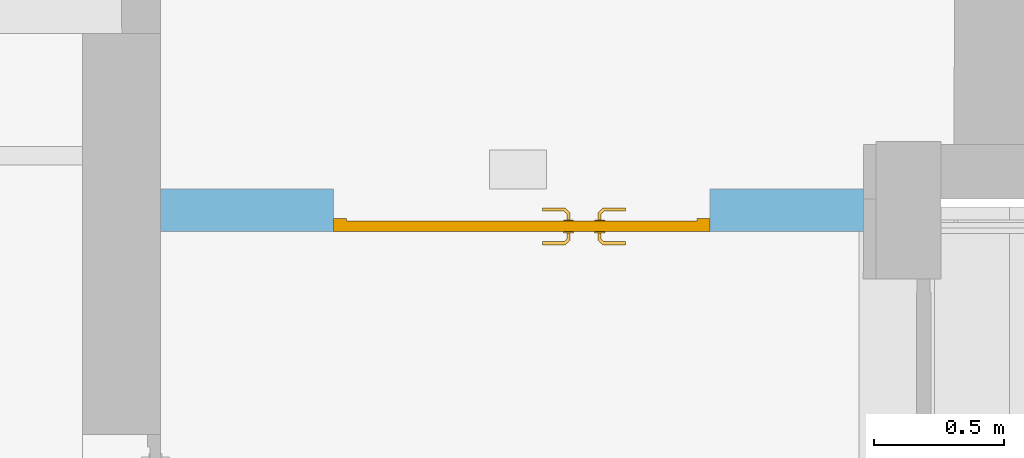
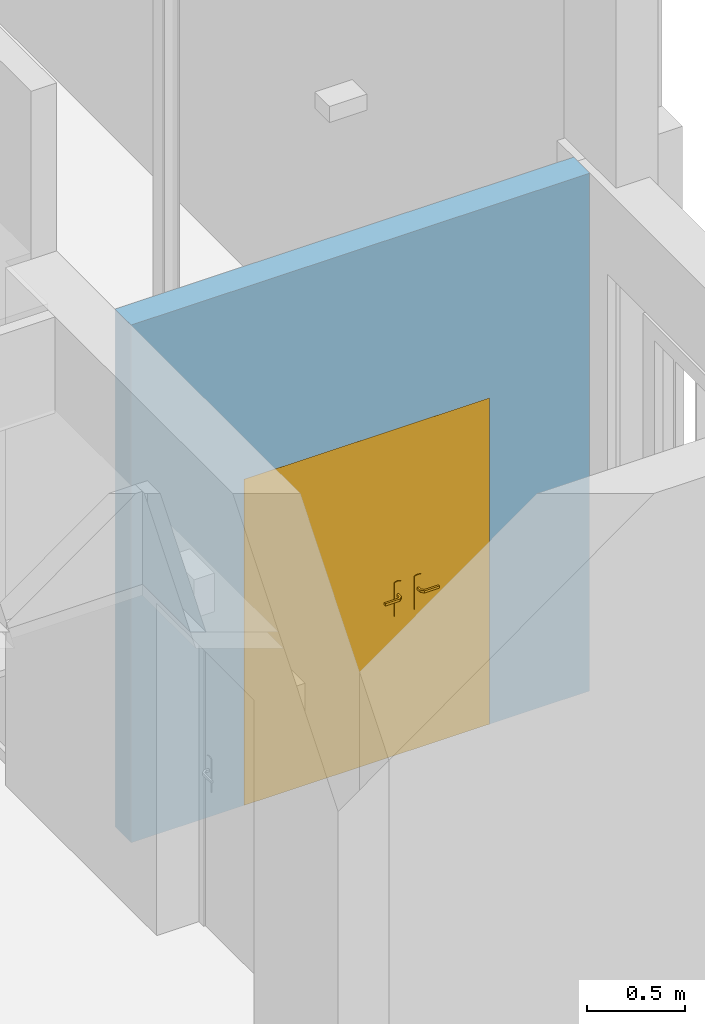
# One storey, part 49 of 128: 1 door, 1 opening, plus 1 element that does not belong to this part.
"""IFC2X3 building model written with IfcOpenShell, lengths in metres."""

from ifc_helpers import new_model, entity, si_unit, converted_unit, derived_unit, direction, frame, frame_2d, origin, place, context, subcontext, project, spatial, polyline, rectangle, outline, extrude, faceted_brep, source, transform, mapped, material, layer, layer_set, layer_usage, type_object, type_shapes, element, fill, save


model = new_model("IFC2X3")

# Units and contexts
model_context = context("Model", 3, precision=1e-05, world=origin(), true_north=direction((6.123031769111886e-17, 1.0)))
body_context = subcontext(model_context, "Body", "Model", "MODEL_VIEW")
ifc_project = project(units=[si_unit("LENGTHUNIT", "METRE"), si_unit("AREAUNIT", "SQUARE_METRE"), converted_unit("PLANEANGLEUNIT", "DEGREE", entity("IfcPlaneAngleMeasure", 0.017453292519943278), si_unit("PLANEANGLEUNIT", "RADIAN"), dimensions=[0, 0, 0, 0, 0, 0, 0]), derived_unit("THERMALTRANSMITTANCEUNIT", [(si_unit("MASSUNIT", "GRAM", prefix="KILO"), 1), (si_unit("THERMODYNAMICTEMPERATUREUNIT", "KELVIN"), -1), (si_unit("TIMEUNIT", "SECOND"), -3)])], contexts=[model_context])

# Site, building, storey
site_placement = place(None, origin())
site = spatial("IfcSite", under=ifc_project, at=site_placement, Name="Default", CompositionType="ELEMENT")
building_placement = place(site_placement, origin())
building = spatial("IfcBuilding", under=site, at=building_placement, CompositionType="ELEMENT")
storey_placement = place(building_placement, origin())
storey = spatial("IfcBuildingStorey", under=building, at=storey_placement, Name="00_RDC CAF", CompositionType="ELEMENT", Elevation=2.4982504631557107e-13)

# Wall, opening, door
ifc_material_1 = material(Name="STR - Beton Mur")
ifc_layer = layer(ifc_material_1, 0.16499999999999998)
ifc_layer_set = layer_set([ifc_layer], Name="Mur de base:M_Int_Beton_165mm")
ifc_layer_usage = layer_usage(ifc_layer_set, "AXIS2", "POSITIVE", -0.08249999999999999)
wall_type = type_object("IfcWallType", Name="Mur de base:M_Int_Beton_165mm", PredefinedType="STANDARD", material=ifc_layer_set)
wall_placement = place(storey_placement, frame((45.844054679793, 129.98613845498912, 0.0)))
wall = element("IfcWallStandardCase", 1, at=wall_placement, inside=storey, type_object=wall_type, material=ifc_layer_usage, Name="Mur de base:M_Int_Beton_165mm", ObjectType="Mur de base:M_Int_Beton_165mm", context=body_context, shape_type="SweptSolid", body=[
    extrude(outline(polyline([(0.0, -0.08249999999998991), (2.706218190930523, -0.0824999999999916), (2.7064840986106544, 0.04238029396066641), (2.706569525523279, 0.08250000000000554), (0.0, 0.08250000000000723), (0.0, -0.08249999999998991)])), origin(), (0.0, 0.0, 1.0), 3.23000000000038),
])
opening_placement = place(wall_placement, frame((2.1157045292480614, 0.0824999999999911, 0.0)))
opening = element("IfcOpeningElement", 2, at=opening_placement, cuts=wall, Name="P_Tunnel_Tierce:P_Int_Tierce_Pleine_1380x2000mm:1", ObjectType="Opening", context=body_context, shape_type="SweptSolid", body=[
    extrude(rectangle(XDim=2.0349999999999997, YDim=1.4499999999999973, at=frame_2d((1.0174999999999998, 0.7250000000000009), x_axis=(1.0, 0.0))), frame((0.0, 0.0, 0.0), z_axis=(0.0, -1.0, 0.0), x_axis=(0.0, 0.0, 1.0)), (0.0, 0.0, 1.0), 0.16499999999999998),
])
ifc_material_2 = material(Name="ARC - M.In - Blanc")
door_style = type_object("IfcDoorStyle", Name="P_Tunnel_Tierce:P_Int_Tierce_Pleine_1380x2000mm", ConstructionType="NOTDEFINED", OperationType="NOTDEFINED", ParameterTakesPrecedence=False, Sizeable=False, material=ifc_material_2)
shared_shape = source(origin(), body_context, "Body", "Brep", [
    faceted_brep([(1.0229747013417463, 0.045000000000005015, 1.0077804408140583), (1.0189999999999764, 0.04500000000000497, 1.0069999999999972), (1.0189999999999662, 0.04500000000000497, 0.9929999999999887), (1.0229747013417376, 0.045000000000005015, 0.9922195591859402), (1.0270252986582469, 0.045000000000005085, 0.9922195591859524), (1.031000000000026, 0.04500000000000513, 0.9930000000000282), (1.0310000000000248, 0.04500000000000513, 1.006999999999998), (1.0270252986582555, 0.045000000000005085, 1.0077804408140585), (1.0310000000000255, 0.06748520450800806, 0.9930000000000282), (1.0310000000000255, 0.06748520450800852, 1.006999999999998), (1.0270252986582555, 0.06913157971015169, 1.0077804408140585), (1.0408389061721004, 0.08294518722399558, 1.0077804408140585), (1.0391610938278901, 0.08699578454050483, 1.0077804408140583), (1.0229747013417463, 0.07080939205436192, 1.0077804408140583), (1.0189999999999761, 0.07245576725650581, 1.0069999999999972), (1.018999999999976, 0.07245576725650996, 0.9929999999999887), (1.0229747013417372, 0.0708093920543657, 0.9922195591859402), (1.0391610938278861, 0.08699578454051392, 0.9922195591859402), (1.0408389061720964, 0.08294518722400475, 0.9922195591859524), (1.0270252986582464, 0.0691315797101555, 0.9922195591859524), (1.0424852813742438, 0.07897048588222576, 0.9930000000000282), (1.0424852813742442, 0.07897048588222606, 1.006999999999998), (1.0375147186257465, 0.09097048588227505, 1.0069999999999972), (1.0375147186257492, 0.09097048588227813, 0.9929999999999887), (1.1250457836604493, 0.07897048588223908, 0.9930000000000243), (1.1250457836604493, 0.08294518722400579, 0.9922195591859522), (1.1250457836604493, 0.08699578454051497, 0.99221955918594), (1.1250457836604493, 0.0909704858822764, 0.9929999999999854), (1.1250457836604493, 0.09097048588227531, 1.0069999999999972), (1.1250457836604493, 0.08699578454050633, 1.007780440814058), (1.1250457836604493, 0.08294518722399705, 1.0077804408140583), (1.1250457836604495, 0.07897048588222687, 1.0069999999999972), (1.0837655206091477, 0.07897048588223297, 0.9930000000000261), (1.0837655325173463, 0.0789704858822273, 1.0069999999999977), (1.0829423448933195, 0.08497048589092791, 1.0078786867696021), (1.077445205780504, 0.09097048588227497, 1.0069999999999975), (1.0774452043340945, 0.09097048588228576, 0.9929999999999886), (1.0829423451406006, 0.08497048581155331, 0.9921213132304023)], [[[0, 1, 2, 3, 4, 5, 6, 7]], [[6, 5, 8, 9]], [[9, 10, 7, 6]], [[10, 11, 12, 13, 0, 7]], [[13, 14, 1, 0]], [[2, 1, 14, 15]], [[15, 16, 3, 2]], [[16, 17, 18, 19, 4, 3]], [[19, 8, 5, 4]], [[9, 8, 20, 21]], [[21, 11, 10, 9]], [[12, 22, 14, 13]], [[15, 14, 22, 23]], [[23, 17, 16, 15]], [[18, 20, 8, 19]], [[24, 25, 26, 27, 28, 29, 30, 31]], [[21, 20, 32, 24, 31, 33]], [[33, 30, 34]], [[35, 34, 29]], [[21, 33, 11]], [[33, 31, 30]], [[28, 35, 29]], [[22, 12, 35]], [[35, 12, 34]], [[12, 11, 34]], [[11, 33, 34]], [[29, 34, 30]], [[22, 35, 28, 27, 36, 23]], [[36, 26, 37]], [[27, 26, 36]], [[17, 23, 36]], [[37, 32, 18]], [[20, 18, 32]], [[32, 25, 24]], [[26, 25, 37]], [[25, 32, 37]], [[17, 36, 37]], [[17, 37, 18]]]),
    faceted_brep([(1.0229747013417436, -0.004999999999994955, 1.0077804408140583), (1.0270252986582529, -0.004999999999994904, 1.0077804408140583), (1.0310000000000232, -0.004999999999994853, 1.006999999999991), (1.0310000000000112, -0.004999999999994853, 0.9930000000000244), (1.0270252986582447, -0.004999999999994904, 0.9922195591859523), (1.0229747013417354, -0.004999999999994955, 0.9922195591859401), (1.0189999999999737, -0.004999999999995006, 0.9929999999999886), (1.0189999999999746, -0.004999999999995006, 1.0069999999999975), (1.0189999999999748, -0.03265095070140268, 1.0069999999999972), (1.0229747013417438, -0.03100457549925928, 1.0077804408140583), (1.0390235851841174, -0.047053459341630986, 1.0077804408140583), (1.0407013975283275, -0.04300286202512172, 1.0077804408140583), (1.0270252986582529, -0.029326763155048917, 1.0077804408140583), (1.0310000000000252, -0.027680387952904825, 1.0069999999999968), (1.0310000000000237, -0.027680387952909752, 0.9930000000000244), (1.027025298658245, -0.0293267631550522, 0.9922195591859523), (1.040701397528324, -0.04300286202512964, 0.9922195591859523), (1.0390235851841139, -0.04705345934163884, 0.9922195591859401), (1.0229747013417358, -0.031004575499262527, 0.9922195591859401), (1.0189999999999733, -0.03265095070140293, 0.9929999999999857), (1.0373772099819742, -0.05102816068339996, 1.0069999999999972), (1.0423477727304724, -0.03902816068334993, 1.0069999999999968), (1.0423477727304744, -0.03902816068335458, 0.9930000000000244), (1.0373772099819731, -0.05102816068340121, 0.9929999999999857), (1.125018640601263, -0.051028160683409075, 0.9929999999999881), (1.1250186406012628, -0.04705345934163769, 0.9922195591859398), (1.1250186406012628, -0.043002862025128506, 0.992219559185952), (1.1250186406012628, -0.03902816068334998, 0.9930000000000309), (1.1250186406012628, -0.0390281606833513, 1.0069999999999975), (1.1250186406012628, -0.04300286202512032, 1.007780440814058), (1.125018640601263, -0.04705345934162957, 1.0077804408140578), (1.125018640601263, -0.05102816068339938, 1.0069999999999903), (1.0773076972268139, -0.05102816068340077, 1.0069999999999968), (1.0828600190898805, -0.04502816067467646, 1.007878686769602), (1.0836832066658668, -0.03902816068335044, 1.0069999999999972), (1.0836832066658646, -0.03902816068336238, 0.9930000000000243), (1.0828600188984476, -0.04502816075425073, 0.9921213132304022), (1.0773077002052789, -0.05102816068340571, 0.992999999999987)], [[[0, 1, 2, 3, 4, 5, 6, 7]], [[8, 9, 0, 7]], [[9, 10, 11, 12, 1, 0]], [[12, 13, 2, 1]], [[3, 2, 13, 14]], [[14, 15, 4, 3]], [[15, 16, 17, 18, 5, 4]], [[18, 19, 6, 5]], [[7, 6, 19, 8]], [[20, 10, 9, 8]], [[11, 21, 13, 12]], [[14, 13, 21, 22]], [[22, 16, 15, 14]], [[17, 23, 19, 18]], [[8, 19, 23, 20]], [[24, 25, 26, 27, 28, 29, 30, 31]], [[32, 30, 33]], [[31, 30, 32]], [[10, 20, 32]], [[33, 34, 11]], [[21, 11, 34]], [[34, 29, 28]], [[30, 29, 33]], [[29, 34, 33]], [[10, 32, 33]], [[10, 33, 11]], [[22, 21, 34, 28, 27, 35]], [[35, 26, 36]], [[37, 36, 25]], [[22, 35, 16]], [[35, 27, 26]], [[24, 37, 25]], [[23, 17, 37]], [[37, 17, 36]], [[17, 16, 36]], [[16, 35, 36]], [[25, 36, 26]], [[20, 23, 37, 24, 31, 32]]]),
    faceted_brep([(1.0353527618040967, 0.040000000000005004, 0.866003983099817), (1.0449999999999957, 0.0400000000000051, 0.8700000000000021), (1.0449999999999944, 0.0400000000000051, 1.0800000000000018), (1.0353527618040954, 0.040000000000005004, 1.083996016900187), (1.0249999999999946, 0.04000000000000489, 1.0853589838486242), (1.014647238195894, 0.04000000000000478, 1.0839960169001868), (1.0049999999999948, 0.04000000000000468, 1.0800000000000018), (1.0049999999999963, 0.04000000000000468, 0.8700000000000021), (1.0146472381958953, 0.04000000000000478, 0.8660039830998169), (1.024999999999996, 0.04000000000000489, 0.8646410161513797), (1.0353527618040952, 0.04500000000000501, 1.083996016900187), (1.0449999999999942, 0.045000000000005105, 1.0800000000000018), (1.0449999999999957, 0.045000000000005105, 0.8700000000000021), (1.0353527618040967, 0.04500000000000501, 0.866003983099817), (1.024999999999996, 0.0450000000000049, 0.8646410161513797), (1.0146472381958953, 0.04500000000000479, 0.8660039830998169), (1.0049999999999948, 0.045000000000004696, 0.870000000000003), (1.0049999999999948, 0.045000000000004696, 1.0800000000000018), (1.014647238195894, 0.04500000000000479, 1.0839960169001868), (1.0249999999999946, 0.0450000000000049, 1.0853589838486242)], [[[0, 1, 2, 3, 4, 5, 6, 7, 8, 9]], [[10, 11, 12, 13, 14, 15, 16, 17, 18, 19]], [[11, 10, 3, 2]], [[3, 10, 19, 4]], [[19, 18, 5, 4]], [[18, 17, 6, 5]], [[7, 6, 17, 16]], [[16, 15, 8, 7]], [[8, 15, 14, 9]], [[14, 13, 0, 9]], [[13, 12, 1, 0]], [[2, 1, 12, 11]]]),
    faceted_brep([(1.0353527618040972, -0.004999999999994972, 0.866003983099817), (1.0449999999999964, -0.0049999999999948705, 0.8700000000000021), (1.044999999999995, -0.0049999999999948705, 1.0800000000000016), (1.035352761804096, -0.004999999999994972, 1.0839960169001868), (1.0249999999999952, -0.00499999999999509, 1.0853589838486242), (1.0146472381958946, -0.0049999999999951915, 1.083996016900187), (1.0049999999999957, -0.004999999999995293, 1.0800000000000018), (1.0049999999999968, -0.004999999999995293, 0.8700000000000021), (1.014647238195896, -0.0049999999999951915, 0.866003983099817), (1.0249999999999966, -0.00499999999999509, 0.8646410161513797), (1.035352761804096, 0.0, 1.0839960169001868), (1.0449999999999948, 0.0, 1.0800000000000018), (1.0449999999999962, 0.0, 0.8700000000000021), (1.0353527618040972, 0.0, 0.866003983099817), (1.0249999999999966, 0.0, 0.8646410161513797), (1.0146472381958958, 0.0, 0.866003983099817), (1.0049999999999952, 0.0, 0.8700000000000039), (1.0049999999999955, 0.0, 1.0800000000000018), (1.0146472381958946, 0.0, 1.083996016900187), (1.0249999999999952, 0.0, 1.0853589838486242)], [[[0, 1, 2, 3, 4, 5, 6, 7, 8, 9]], [[10, 11, 12, 13, 14, 15, 16, 17, 18, 19]], [[16, 15, 8, 7]], [[8, 15, 14, 9]], [[14, 13, 0, 9]], [[13, 12, 1, 0]], [[2, 1, 12, 11]], [[11, 10, 3, 2]], [[3, 10, 19, 4]], [[19, 18, 5, 4]], [[18, 17, 6, 5]], [[7, 6, 17, 16]]]),
    faceted_brep([(0.9649999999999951, 0.040000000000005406, 2.0), (1.4149999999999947, 0.040000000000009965, 2.0), (1.4149999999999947, 0.040000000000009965, 0.0), (0.9649999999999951, 0.040000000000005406, 0.0), (1.4149999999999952, 0.0, 2.0), (1.4149999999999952, 0.0, 0.0), (0.9649999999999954, 0.0, 0.0), (0.9649999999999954, 0.0, 2.0)], [[[0, 1, 2, 3]], [[2, 1, 4, 5]], [[3, 2, 5, 6]], [[0, 3, 6, 7]], [[7, 6, 5, 4]], [[1, 0, 7, 4]]]),
    faceted_brep([(0.9029747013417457, 0.045000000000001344, 0.9922195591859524), (0.907025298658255, 0.045000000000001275, 0.9922195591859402), (0.9110000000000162, 0.045000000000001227, 0.9929999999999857), (0.9110000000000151, 0.045000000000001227, 1.0069999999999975), (0.9070252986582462, 0.045000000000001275, 1.0077804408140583), (0.902974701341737, 0.045000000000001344, 1.0077804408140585), (0.8989999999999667, 0.04500000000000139, 1.0069999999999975), (0.898999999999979, 0.04500000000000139, 0.9930000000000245), (0.8989999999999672, 0.0674852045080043, 1.0069999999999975), (0.8989999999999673, 0.06748520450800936, 0.9930000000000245), (0.902974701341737, 0.06913157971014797, 1.0077804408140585), (0.9070252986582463, 0.0708093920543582, 1.0077804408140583), (0.8908389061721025, 0.08699578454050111, 1.0077804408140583), (0.8891610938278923, 0.08294518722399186, 1.0077804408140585), (0.9110000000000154, 0.07245576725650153, 1.0069999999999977), (0.9110000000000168, 0.07245576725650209, 0.9929999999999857), (0.9070252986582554, 0.07080939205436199, 0.9922195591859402), (0.9029747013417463, 0.06913157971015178, 0.9922195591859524), (0.8891610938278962, 0.08294518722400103, 0.9922195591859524), (0.8908389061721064, 0.08699578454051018, 0.9922195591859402), (0.8875147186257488, 0.07897048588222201, 1.0069999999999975), (0.8875147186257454, 0.07897048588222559, 0.9930000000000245), (0.8924852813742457, 0.09097048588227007, 1.0069999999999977), (0.8924852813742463, 0.09097048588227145, 0.9929999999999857), (0.8049542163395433, 0.08294518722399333, 1.0077804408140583), (0.8049542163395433, 0.08699578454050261, 1.007780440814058), (0.8049542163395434, 0.09097048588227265, 1.006999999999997), (0.8049542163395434, 0.09097048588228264, 0.9929999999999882), (0.8049542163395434, 0.08699578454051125, 0.99221955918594), (0.8049542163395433, 0.08294518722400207, 0.9922195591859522), (0.8049542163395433, 0.07897048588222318, 0.993000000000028), (0.8049542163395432, 0.0789704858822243, 1.0069999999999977), (0.8462344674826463, 0.07897048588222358, 1.0069999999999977), (0.8462344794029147, 0.07897048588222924, 0.9930000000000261), (0.847057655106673, 0.08497048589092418, 1.0078786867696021), (0.8525547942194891, 0.09097048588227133, 1.0069999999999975), (0.8525547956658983, 0.09097048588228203, 0.9929999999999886), (0.8470576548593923, 0.08497048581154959, 0.9921213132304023)], [[[0, 1, 2, 3, 4, 5, 6, 7]], [[8, 9, 7, 6]], [[5, 10, 8, 6]], [[5, 4, 11, 12, 13, 10]], [[3, 14, 11, 4]], [[14, 3, 2, 15]], [[2, 1, 16, 15]], [[1, 0, 17, 18, 19, 16]], [[0, 7, 9, 17]], [[20, 21, 9, 8]], [[8, 10, 13, 20]], [[14, 22, 12, 11]], [[23, 22, 14, 15]], [[15, 16, 19, 23]], [[17, 9, 21, 18]], [[24, 25, 26, 27, 28, 29, 30, 31]], [[21, 20, 32, 31, 30, 33]], [[34, 24, 32]], [[25, 34, 35]], [[13, 32, 20]], [[24, 31, 32]], [[25, 35, 26]], [[35, 12, 22]], [[34, 12, 35]], [[34, 13, 12]], [[34, 32, 13]], [[24, 34, 25]], [[22, 23, 36, 27, 26, 35]], [[37, 28, 36]], [[36, 28, 27]], [[36, 23, 19]], [[18, 33, 37]], [[33, 18, 21]], [[30, 29, 33]], [[37, 29, 28]], [[37, 33, 29]], [[37, 36, 19]], [[18, 37, 19]]]),
    faceted_brep([(0.9029747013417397, -0.0049999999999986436, 1.0077804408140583), (0.907025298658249, -0.004999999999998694, 1.0077804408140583), (0.9110000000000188, -0.004999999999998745, 1.0069999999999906), (0.9110000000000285, -0.004999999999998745, 0.9929999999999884), (0.9070252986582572, -0.004999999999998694, 0.9922195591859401), (0.9029747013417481, -0.0049999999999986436, 0.9922195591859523), (0.8989999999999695, -0.004999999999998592, 0.9930000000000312), (0.8989999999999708, -0.004999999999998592, 1.006999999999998), (0.9070252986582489, -0.031004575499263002, 1.0077804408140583), (0.9110000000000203, -0.03265095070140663, 1.0069999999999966), (0.9029747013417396, -0.02932676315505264, 1.0077804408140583), (0.8892986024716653, -0.043002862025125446, 1.0077804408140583), (0.8909764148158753, -0.04705345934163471, 1.0077804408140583), (0.8989999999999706, -0.02768038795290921, 1.006999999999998), (0.8989999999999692, -0.027680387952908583, 0.9930000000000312), (0.9029747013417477, -0.02932676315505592, 0.9922195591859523), (0.9070252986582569, -0.03100457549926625, 0.9922195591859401), (0.8909764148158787, -0.04705345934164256, 0.9922195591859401), (0.8892986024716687, -0.043002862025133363, 0.9922195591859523), (0.9110000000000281, -0.032650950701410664, 0.9929999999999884), (0.89262279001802, -0.051028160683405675, 1.0069999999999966), (0.8876522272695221, -0.03902816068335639, 1.006999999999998), (0.8876522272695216, -0.03902816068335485, 0.9930000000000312), (0.8926227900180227, -0.051028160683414, 0.9929999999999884), (0.8049813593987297, -0.051028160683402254, 1.0069999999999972), (0.8049813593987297, -0.04705345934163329, 1.0077804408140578), (0.8049813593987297, -0.04300286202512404, 1.007780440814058), (0.80498135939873, -0.039028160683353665, 1.0069999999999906), (0.80498135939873, -0.039028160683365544, 0.9930000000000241), (0.80498135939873, -0.043002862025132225, 0.992219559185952), (0.8049813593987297, -0.04705345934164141, 0.9922195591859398), (0.8049813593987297, -0.051028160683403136, 0.9929999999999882), (0.8471399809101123, -0.04502816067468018, 1.007878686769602), (0.8526923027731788, -0.05102816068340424, 1.0069999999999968), (0.8463167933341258, -0.03902816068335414, 1.0069999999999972), (0.8463167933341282, -0.039028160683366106, 0.9930000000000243), (0.847139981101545, -0.04502816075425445, 0.9921213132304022), (0.852692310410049, -0.05102816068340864, 0.9929999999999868)], [[[0, 1, 2, 3, 4, 5, 6, 7]], [[2, 1, 8, 9]], [[1, 0, 10, 11, 12, 8]], [[0, 7, 13, 10]], [[14, 13, 7, 6]], [[5, 15, 14, 6]], [[5, 4, 16, 17, 18, 15]], [[3, 19, 16, 4]], [[9, 19, 3, 2]], [[9, 8, 12, 20]], [[10, 13, 21, 11]], [[22, 21, 13, 14]], [[14, 15, 18, 22]], [[16, 19, 23, 17]], [[20, 23, 19, 9]], [[24, 25, 26, 27, 28, 29, 30, 31]], [[32, 25, 33]], [[33, 25, 24]], [[33, 20, 12]], [[11, 34, 32]], [[34, 11, 21]], [[27, 26, 34]], [[32, 26, 25]], [[32, 34, 26]], [[32, 33, 12]], [[11, 32, 12]], [[21, 22, 35, 28, 27, 34]], [[36, 29, 35]], [[30, 36, 37]], [[18, 35, 22]], [[29, 28, 35]], [[30, 37, 31]], [[37, 17, 23]], [[36, 17, 37]], [[36, 18, 17]], [[36, 35, 18]], [[29, 36, 30]], [[23, 20, 33, 24, 31, 37]]]),
    faceted_brep([(0.9249999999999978, 0.04000000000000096, 0.870000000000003), (0.9249999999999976, 0.04000000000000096, 1.0800000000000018), (0.9153527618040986, 0.040000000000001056, 1.0839960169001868), (0.904999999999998, 0.04000000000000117, 1.0853589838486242), (0.8946472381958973, 0.04000000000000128, 1.083996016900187), (0.8849999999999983, 0.04000000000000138, 1.0800000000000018), (0.8849999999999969, 0.04000000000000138, 0.8700000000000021), (0.8946472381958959, 0.04000000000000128, 0.866003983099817), (0.9049999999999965, 0.04000000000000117, 0.8646410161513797), (0.9153527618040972, 0.040000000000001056, 0.8660039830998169), (0.9049999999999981, 0.04500000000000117, 1.0853589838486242), (0.9153527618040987, 0.045000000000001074, 1.0839960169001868), (0.9249999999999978, 0.04500000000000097, 1.0800000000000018), (0.9249999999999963, 0.04500000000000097, 0.8700000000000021), (0.9153527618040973, 0.045000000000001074, 0.8660039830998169), (0.9049999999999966, 0.04500000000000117, 0.8646410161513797), (0.8946472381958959, 0.04500000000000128, 0.866003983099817), (0.884999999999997, 0.045000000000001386, 0.8700000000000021), (0.8849999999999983, 0.045000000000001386, 1.0800000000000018), (0.8946472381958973, 0.04500000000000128, 1.083996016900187)], [[[0, 1, 2, 3, 4, 5, 6, 7, 8, 9]], [[10, 11, 12, 13, 14, 15, 16, 17, 18, 19]], [[4, 19, 18, 5]], [[3, 10, 19, 4]], [[2, 11, 10, 3]], [[2, 1, 12, 11]], [[13, 12, 1, 0]], [[9, 14, 13, 0]], [[8, 15, 14, 9]], [[7, 16, 15, 8]], [[7, 6, 17, 16]], [[17, 6, 5, 18]]]),
    faceted_brep([(0.9249999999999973, -0.004999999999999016, 0.8700000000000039), (0.9249999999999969, -0.004999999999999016, 1.0800000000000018), (0.915352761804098, -0.004999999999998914, 1.083996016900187), (0.9049999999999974, -0.004999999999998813, 1.0853589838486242), (0.8946472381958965, -0.004999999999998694, 1.0839960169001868), (0.8849999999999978, -0.004999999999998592, 1.0800000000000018), (0.8849999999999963, -0.004999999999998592, 0.8700000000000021), (0.8946472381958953, -0.004999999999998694, 0.866003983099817), (0.9049999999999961, -0.004999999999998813, 0.8646410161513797), (0.9153527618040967, -0.004999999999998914, 0.866003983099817), (0.924999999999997, 0.0, 1.0800000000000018), (0.9249999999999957, 0.0, 0.8700000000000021), (0.9153527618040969, 0.0, 0.866003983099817), (0.9049999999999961, 0.0, 0.8646410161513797), (0.8946472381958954, 0.0, 0.866003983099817), (0.8849999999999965, 0.0, 0.8700000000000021), (0.8849999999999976, 0.0, 1.0800000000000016), (0.8946472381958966, 0.0, 1.0839960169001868), (0.9049999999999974, 0.0, 1.0853589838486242), (0.915352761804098, 0.0, 1.083996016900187)], [[[0, 1, 2, 3, 4, 5, 6, 7, 8, 9]], [[10, 11, 12, 13, 14, 15, 16, 17, 18, 19]], [[9, 12, 11, 0]], [[8, 13, 12, 9]], [[7, 14, 13, 8]], [[7, 6, 15, 14]], [[15, 6, 5, 16]], [[4, 17, 16, 5]], [[3, 18, 17, 4]], [[2, 19, 18, 3]], [[2, 1, 10, 19]], [[11, 10, 1, 0]]]),
    faceted_brep([(0.9649999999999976, 0.040000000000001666, 2.0), (0.9649999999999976, 0.040000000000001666, 0.0), (0.034999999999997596, 0.0400000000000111, 0.0), (0.034999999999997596, 0.0400000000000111, 2.0), (0.034999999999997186, 0.0, 0.0), (0.034999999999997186, 0.0, 2.0), (0.9649999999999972, 0.0, 0.0), (0.9649999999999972, 0.0, 2.0)], [[[0, 1, 2, 3]], [[2, 4, 5, 3]], [[1, 6, 4, 2]], [[0, 7, 6, 1]], [[7, 5, 4, 6]], [[3, 5, 7, 0]]]),
    faceted_brep([(0.0, 0.05000000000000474, 0.0), (0.049999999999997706, 0.050000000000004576, 0.0), (0.049999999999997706, 0.04000000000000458, 0.0), (0.034999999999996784, 0.04000000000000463, 0.0), (0.034999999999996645, 0.0, 0.0), (0.0, 0.0, 0.0), (0.0, 0.05000000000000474, 2.0349999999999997), (1.4499999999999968, 0.05000000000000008, 2.0349999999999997), (1.4499999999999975, 0.05000000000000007, 0.0), (1.3999999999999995, 0.050000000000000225, 0.0), (1.3999999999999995, 0.050000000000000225, 1.9850000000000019), (0.049999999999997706, 0.050000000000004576, 1.9850000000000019), (0.049999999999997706, 0.04000000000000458, 1.9850000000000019), (1.399999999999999, 0.04000000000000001, 1.9850000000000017), (1.399999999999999, 0.040000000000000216, 0.0), (1.415, 0.04000000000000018, 0.0), (1.415, 0.040000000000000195, 2.0), (0.034999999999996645, 0.040000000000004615, 2.0), (0.03499999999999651, 0.0, 2.0), (1.4150000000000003, 0.0, 2.0), (1.4150000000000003, 0.0, 0.0), (1.4499999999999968, 0.0, 0.0), (1.4499999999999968, 0.0, 2.0349999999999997), (0.0, 0.0, 2.0349999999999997)], [[[0, 1, 2, 3, 4, 5]], [[1, 0, 6, 7, 8, 9, 10, 11]], [[2, 1, 11, 12]], [[3, 2, 12, 13, 14, 15, 16, 17]], [[4, 3, 17, 18]], [[5, 4, 18, 19, 20, 21, 22, 23]], [[0, 5, 23, 6]], [[7, 22, 21, 8]], [[8, 21, 20, 15, 14, 9]], [[13, 10, 9, 14]], [[19, 16, 15, 20]], [[12, 11, 10, 13]], [[18, 17, 16, 19]], [[6, 23, 22, 7]]]),
])
type_shapes(door_style, [shared_shape])
door_placement = place(opening_placement, frame((-1.4500000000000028, -0.16499999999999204, 0.0)))
door = element("IfcDoor", 3, at=door_placement, inside=storey, type_object=door_style, material=ifc_material_2, Name="P_Tunnel_Tierce:P_Int_Tierce_Pleine_1380x2000mm", ObjectType="P_Tunnel_Tierce:P_Int_Tierce_Pleine_1380x2000mm", OverallHeight=2.0349999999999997, OverallWidth=1.4499999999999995, context=body_context, shape_type="MappedRepresentation", body=[
    mapped(shared_shape, transform((0.0, 0.0, 0.0), scale=1.0)),
])
fill(opening, door)

save(model, "model.ifc")
